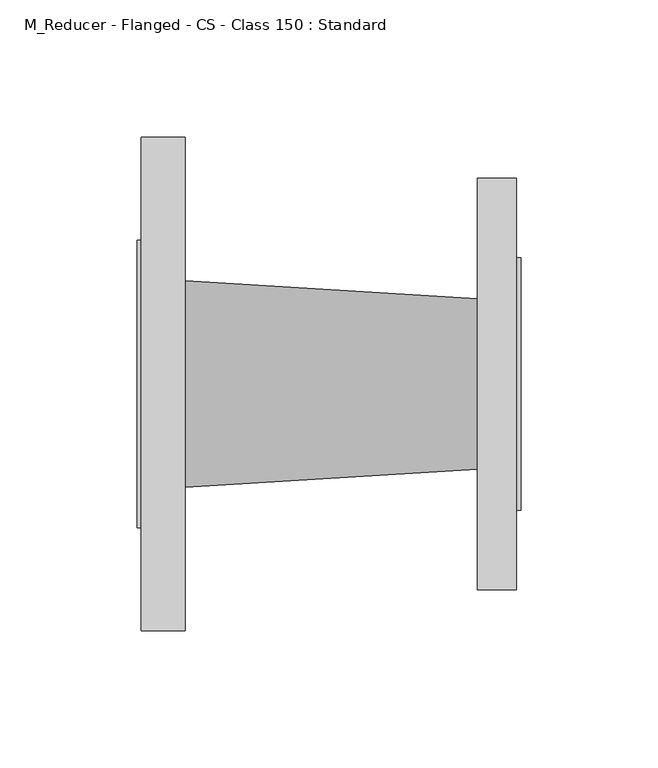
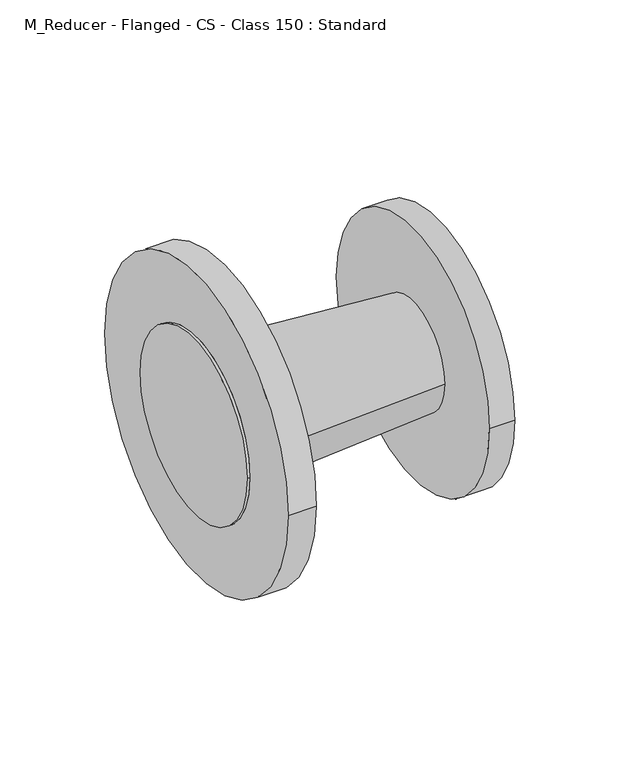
"""IFC4 building model written with IfcOpenShell, lengths in millimetres: pipe fitting geometry, M_Reducer - Flanged - CS - Class 150 : Standard."""

from ifc_helpers import new_model, si_unit, frame, origin, place, context, project, spatial, polyline, circle_curve, source, transform, mapped, element, save
from ifc_brep_helpers import plane_surface, cylinder_surface, revolved_surface, advanced_brep


def m_reducer_flanged_cs_class_150_standard_50093ec8(model_context):
    return source(origin(), model_context, "Body", "AdvancedBrep", [
        advanced_brep(
        [(17.4875, -90.0, 0.0), (17.4875, 90.0, 0.0), (17.4875, 37.6, 0.0), (17.4875, -37.6, 0.0), (1.5875, -90.0, 0.0), (1.5875, 90.0, 0.0), (1.5875, -52.4, 0.0), (1.5875, 52.4, 0.0), (124.1125, 31.1, 0.0), (124.1125, -31.1, 0.0), (138.4125, -75.0, 0.0), (138.4125, 75.0, 0.0), (138.4125, 46.05, 0.0), (138.4125, -46.05, 0.0), (124.1125, -75.0, 0.0), (124.1125, 75.0, 0.0), (0.0, -52.4, 0.0), (0.0, 52.4, 0.0), (140.0, -46.05, 0.0), (140.0, 46.05, 0.0)],
        [
            (0, 1, circle_curve(frame((17.4875, 0.0, 0.0), z_axis=(1.0, 0.0, 0.0), x_axis=(0.0, 1.0, 0.0)), 90.0)),
            (1, 0, circle_curve(frame((17.4875, 0.0, 0.0), z_axis=(1.0, 0.0, 0.0), x_axis=(0.0, 1.0, 0.0)), 90.0)),
            (2, 3, circle_curve(frame((17.4875, 0.0, 0.0), z_axis=(-1.0, 0.0, 0.0), x_axis=(0.0, -1.0, 0.0)), 37.6)),
            (3, 2, circle_curve(frame((17.4875, 0.0, 0.0), z_axis=(-1.0, 0.0, 0.0), x_axis=(0.0, 1.0, 0.0)), 37.6)),
            (4, 5, circle_curve(frame((1.5875, 0.0, 0.0), z_axis=(-1.0, 0.0, 0.0), x_axis=(0.0, 1.0, 0.0)), 90.0)),
            (5, 4, circle_curve(frame((1.5875, 0.0, 0.0), z_axis=(-1.0, 0.0, 0.0), x_axis=(0.0, 1.0, 0.0)), 90.0)),
            (6, 7, circle_curve(frame((1.5875, 0.0, 0.0), z_axis=(1.0, 0.0, 0.0), x_axis=(0.0, 1.0, 0.0)), 52.4)),
            (7, 6, circle_curve(frame((1.5875, 0.0, 0.0), z_axis=(1.0, 0.0, 0.0), x_axis=(0.0, 1.0, 0.0)), 52.4)),
            (0, 4),
            (5, 1),
            (2, 8),
            (8, 9, circle_curve(frame((124.1125, 0.0, 0.0), z_axis=(-1.0, 0.0, 0.0), x_axis=(0.0, -1.0, 0.0)), 31.1)),
            (9, 3),
            (9, 8, circle_curve(frame((124.1125, 0.0, 0.0), z_axis=(-1.0, 0.0, 0.0), x_axis=(0.0, 1.0, 0.0)), 31.1)),
            (10, 11, circle_curve(frame((138.4125, 0.0, 0.0), z_axis=(1.0, 0.0, 0.0), x_axis=(0.0, 1.0, 0.0)), 75.0)),
            (11, 10, circle_curve(frame((138.4125, 0.0, 0.0), z_axis=(1.0, 0.0, 0.0), x_axis=(0.0, 1.0, 0.0)), 75.0)),
            (12, 13, circle_curve(frame((138.4125, 0.0, 0.0), z_axis=(-1.0, 0.0, 0.0), x_axis=(0.0, 1.0, 0.0)), 46.05)),
            (13, 12, circle_curve(frame((138.4125, 0.0, 0.0), z_axis=(-1.0, 0.0, 0.0), x_axis=(0.0, 1.0, 0.0)), 46.05)),
            (14, 15, circle_curve(frame((124.1125, 0.0, 0.0), z_axis=(-1.0, 0.0, 0.0), x_axis=(0.0, 1.0, 0.0)), 75.0)),
            (15, 14, circle_curve(frame((124.1125, 0.0, 0.0), z_axis=(-1.0, 0.0, 0.0), x_axis=(0.0, 1.0, 0.0)), 75.0)),
            (10, 14),
            (15, 11),
            (16, 17, circle_curve(frame((0.0, 0.0, 0.0), z_axis=(-1.0, 0.0, 0.0), x_axis=(0.0, 1.0, 0.0)), 52.4)),
            (17, 16, circle_curve(frame((0.0, 0.0, 0.0), z_axis=(-1.0, 0.0, 0.0), x_axis=(0.0, 1.0, 0.0)), 52.4)),
            (17, 7),
            (6, 16),
            (18, 19, circle_curve(frame((140.0, 0.0, 0.0), z_axis=(1.0, 0.0, 0.0), x_axis=(0.0, 1.0, 0.0)), 46.05)),
            (19, 18, circle_curve(frame((140.0, 0.0, 0.0), z_axis=(1.0, 0.0, 0.0), x_axis=(0.0, 1.0, 0.0)), 46.05)),
            (18, 13),
            (12, 19),
        ],
        [
            plane_surface(frame((17.4875, 90.0, 0.0), z_axis=(1.0, 0.0, 0.0), x_axis=(0.0, 0.0, 1.0))),
            plane_surface(frame((1.5875, 90.0, 0.0), z_axis=(-1.0, 0.0, 0.0), x_axis=(0.0, 0.0, -1.0))),
            cylinder_surface(frame((1.5875, 0.0, 0.0), z_axis=(1.0, 0.0, 0.0), x_axis=(0.0, 1.0, 0.0)), 90.0),
            revolved_surface(polyline([(124.11250000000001, 31.10000000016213, 0.0), (17.487499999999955, 37.6, 0.0)]), (634.2721154, 0.0, 0.0), (-1.0, 0.0, 0.0)),
            plane_surface(frame((138.4125, 75.0, 0.0), z_axis=(1.0, 0.0, 0.0), x_axis=(0.0, 0.0, 1.0))),
            plane_surface(frame((124.1125, 75.0, 0.0), z_axis=(-1.0, 0.0, 0.0), x_axis=(0.0, 0.0, -1.0))),
            cylinder_surface(frame((124.1125, 0.0, 0.0), z_axis=(1.0, 0.0, 0.0), x_axis=(0.0, 1.0, 0.0)), 75.0),
            plane_surface(frame((0.0, 52.4, 0.0), z_axis=(-1.0, 0.0, 0.0), x_axis=(0.0, 0.0, -1.0))),
            cylinder_surface(frame((0.0, 0.0, 0.0), z_axis=(1.0, 0.0, 0.0), x_axis=(0.0, 1.0, 0.0)), 52.4),
            plane_surface(frame((140.0, 46.05, 0.0), z_axis=(1.0, 0.0, 0.0), x_axis=(0.0, 0.0, 1.0))),
            cylinder_surface(frame((138.4125, 0.0, 0.0), z_axis=(1.0, 0.0, 0.0), x_axis=(0.0, 1.0, 0.0)), 46.05),
        ],
        [
            (0, [[1, 2], [3, 4]]),
            (1, [[5, 6], [7, 8]]),
            (2, [[-1, 9, -6, 10]]),
            (2, [[-2, -10, -5, -9]]),
            (3, [[11, 12, 13, -3]]),
            (3, [[-11, -4, -13, 14]]),
            (4, [[15, 16], [17, 18]]),
            (5, [[19, 20], [-12, -14]]),
            (6, [[-15, 21, -20, 22]]),
            (6, [[-16, -22, -19, -21]]),
            (7, [[23, 24]]),
            (8, [[-24, 25, -7, 26]]),
            (8, [[-23, -26, -8, -25]]),
            (9, [[27, 28]]),
            (10, [[-27, 29, -17, 30]]),
            (10, [[-28, -30, -18, -29]]),
        ],
    ),
    ])


if __name__ == "__main__":
    model = new_model("IFC4")
    model_context = context("Model", 3, world=origin())
    ifc_project = project(units=[si_unit("LENGTHUNIT", "METRE", prefix="MILLI")], contexts=[model_context])
    site = spatial("IfcSite", under=ifc_project)
    building = spatial("IfcBuilding", under=site)
    placement = place(None, origin())
    m_reducer_flanged_cs_class_150_standard_shape = m_reducer_flanged_cs_class_150_standard_50093ec8(model_context)
    element("IfcPipeFitting", 1, ObjectType="M_Reducer - Flanged - CS - Class 150 : Standard", at=placement, inside=building, context=model_context, shape_type="MappedRepresentation", body=[
        mapped(m_reducer_flanged_cs_class_150_standard_shape, transform((0.0, 0.0, 0.0), x_axis=(1.0, 0.0, 0.0), y_axis=(0.0, 1.0, 0.0), z_axis=(0.0, 0.0, 1.0))),
    ])
    save(model, "model.ifc")
